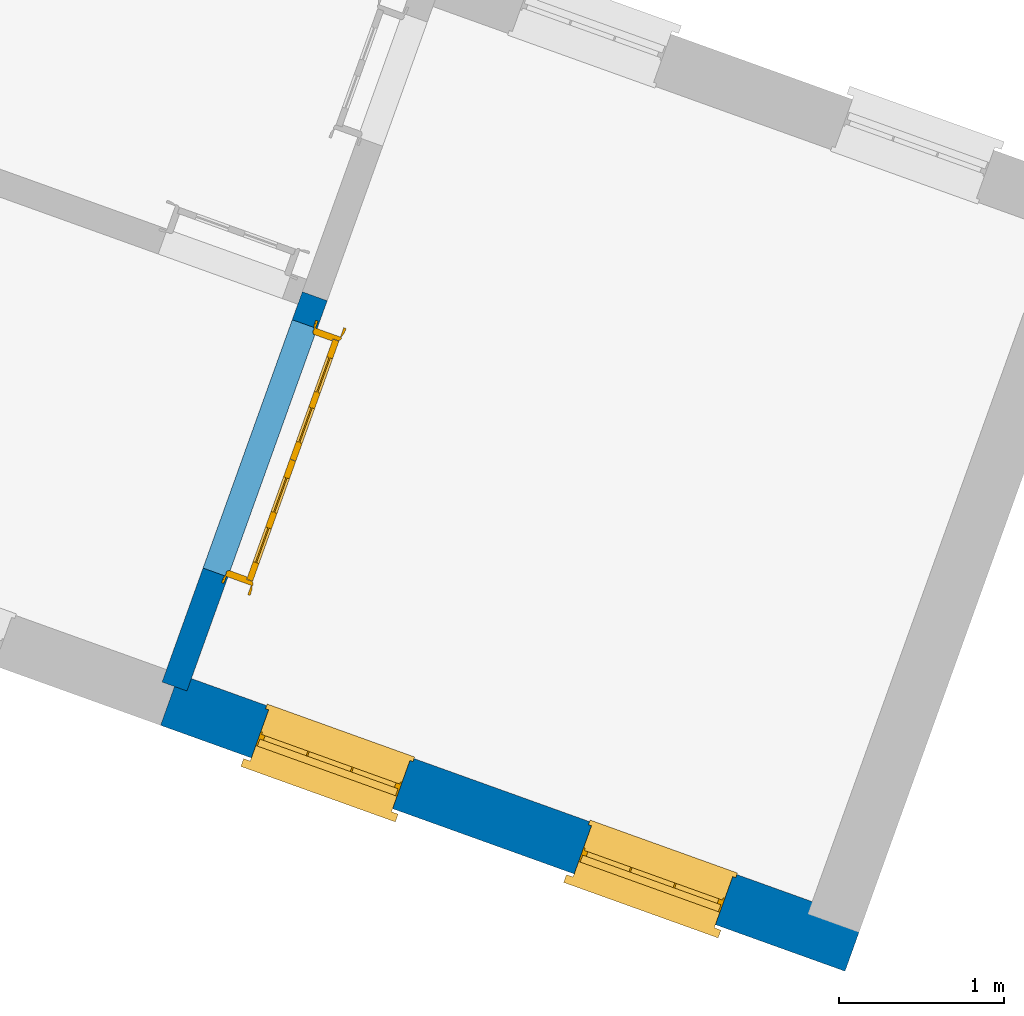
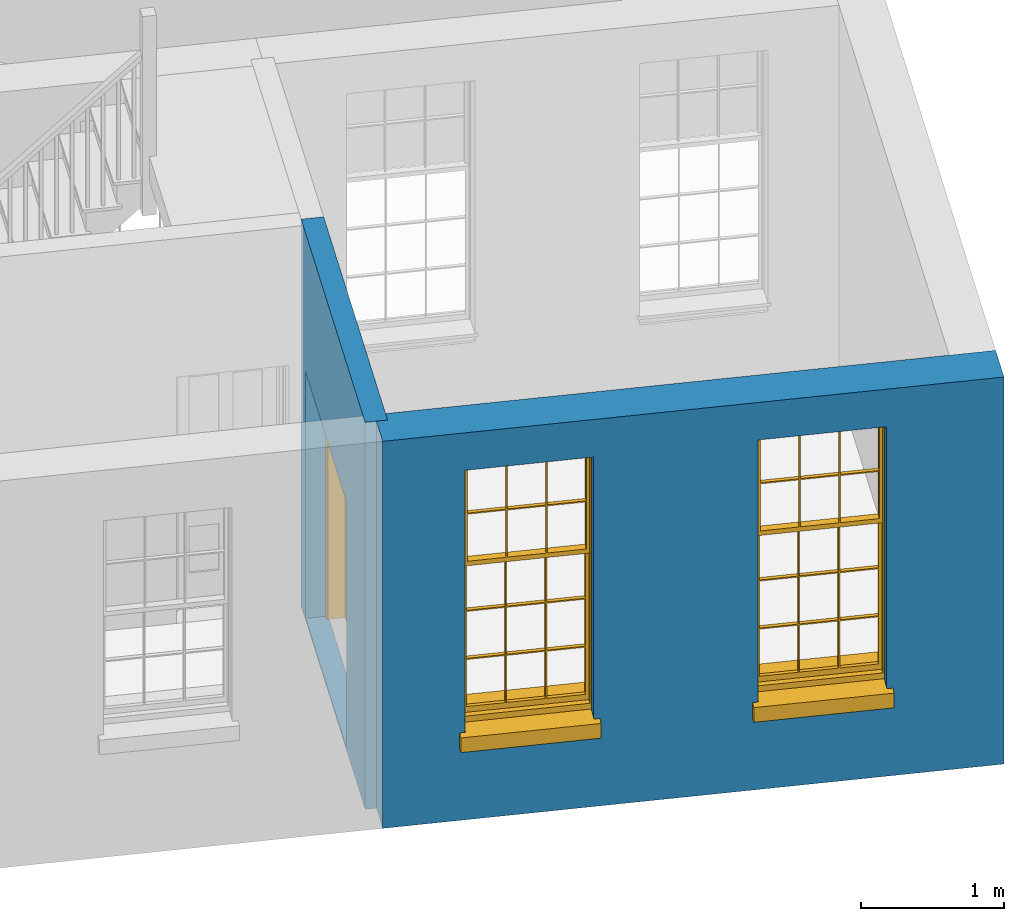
# One storey, part 2 of 6: 2 walls, 2 windows, 1 door, 3 openings.
"""IFC4 building model written with IfcOpenShell, lengths in metres."""

from ifc_helpers import new_model, si_unit, frame, origin, origin_with_axes, place, context, subcontext, project, spatial, polyline, outline, extrude, faceted_brep, source, transform, mapped, material, layer, layer_set, layer_usage, type_object, type_shapes, element, fill, save


model = new_model("IFC4")

# Units and contexts
model_context = context("Model", 3, world=origin_with_axes())
body_context = subcontext(model_context, "Body", "Model", "MODEL_VIEW")
ifc_project = project(units=[si_unit("PLANEANGLEUNIT", "RADIAN"), si_unit("MASSUNIT", "GRAM", prefix="KILO"), si_unit("FORCEUNIT", "NEWTON", prefix="KILO"), si_unit("LENGTHUNIT", "METRE"), si_unit("AREAUNIT", "SQUARE_METRE"), si_unit("VOLUMEUNIT", "CUBIC_METRE")], contexts=[model_context, model_context])

# Sites, building, storey
site_1_placement = place(None, origin_with_axes())
site_1 = spatial("IfcSite", under=ifc_project, at=site_1_placement, Name="Tamar")
site_2_placement = place(site_1_placement, origin_with_axes())
site_2 = spatial("IfcSite", under=site_1, at=site_2_placement, Name="Site plot-22", CompositionType="ELEMENT")
building_placement = place(None, origin_with_axes())
building = spatial("IfcBuilding", under=site_2, at=building_placement, Name="Building plot-22", CompositionType="ELEMENT")
storey_placement = place(None, frame((0.0, 0.0, 24.5), z_axis=(0.0, 0.0, 1.0), x_axis=(1.0, 0.0, 0.0)))
storey = spatial("IfcBuildingStorey", under=building, at=storey_placement, Name="plot-22 0", CompositionType="ELEMENT", Elevation=24.5)

# Wall, openings, windows
ifc_material_1 = material(Name="Masonry")
ifc_layer_1 = layer(ifc_material_1, 0.33, ventilated=False)
ifc_layer_set_1 = layer_set([ifc_layer_1], Name="exterior_0.08_0.25")
ifc_layer_usage_1 = layer_usage(ifc_layer_set_1, "AXIS2", "POSITIVE", -0.25)
wall_type_1 = type_object("IfcWallType", Name="exterior_0.08_0.25", PredefinedType="SOLIDWALL", material=ifc_layer_set_1)
wall_1_placement = place(storey_placement, frame((252.911384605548, 270.798765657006, 0.0), z_axis=(0.0, 0.0, 1.0), x_axis=(0.941087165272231, -0.338164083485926, 0.0)))
wall_1 = element("IfcWall", 1, at=wall_1_placement, inside=storey, type_object=wall_type_1, material=ifc_layer_usage_1, Name="exterior", context=body_context, shape_type="SweptSolid", body=[
    extrude(outline(polyline([(1.44644432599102e-14, 0.0799999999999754), (-3.46848826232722e-14, -0.249999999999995), (4.40963962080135, -0.249999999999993), (4.40963962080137, 0.0799999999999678), (1.44644432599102e-14, 0.0799999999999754)])), origin_with_axes(), (0.0, 0.0, 1.0), 3.3),
])
opening_1_placement = place(wall_1_placement, frame((0.584909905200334, 0.0, 0.75)))
opening_1 = element("IfcOpeningElement", 2, at=opening_1_placement, cuts=wall_1, Name="My Opening", ObjectType="Opening", context=body_context, shape_type="SweptSolid", body=[
    extrude(outline(polyline([(0.0, -0.269999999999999), (0.910000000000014, -0.270000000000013), (0.910000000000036, 1.09999999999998), (2.18713935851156e-14, 1.1), (0.0, -0.269999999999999)])), origin_with_axes(), (0.0, 0.0, 1.0), 2.23),
])
opening_2_placement = place(wall_1_placement, frame((2.66472971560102, 0.0, 0.75)))
opening_2 = element("IfcOpeningElement", 3, at=opening_2_placement, cuts=wall_1, Name="My Opening", ObjectType="Opening", context=body_context, shape_type="SweptSolid", body=[
    extrude(outline(polyline([(0.0, -0.269999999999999), (0.910000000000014, -0.270000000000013), (0.909999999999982, 1.09999999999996), (2.22044604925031e-14, 1.1), (0.0, -0.269999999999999)])), origin_with_axes(), (0.0, 0.0, 1.0), 2.23),
])
window_type = type_object("IfcWindowType", Name="sash_big_taller", PartitioningType="DOUBLE_PANEL_HORIZONTAL", PredefinedType="NOTDEFINED")
shared_shape_1 = source(origin(), body_context, "Body", "Brep", [
    faceted_brep([(0.033125, 0.145, 1.385209), (0.01, 0.145, 1.385209), (0.033125, 0.145, 1.786042), (0.876875, 0.145, 1.385209), (0.876875, 0.145, 1.786042), (0.9, 0.145, 1.385209), (0.876875, 0.145, 1.796042), (0.876875, 0.145, 2.196875), (0.9, 0.145, 2.22), (0.033125, 0.145, 2.196875), (0.033125, 0.145, 1.796042), (0.01, 0.145, 2.22), (0.876875, 0.115, 1.786042), (0.876875, 0.115, 1.385209), (0.9, 0.115, 1.347084), (0.033125, 0.115, 2.196875), (0.01, 0.115, 2.22), (0.033125, 0.115, 1.796042), (0.01, 0.115, 1.347084), (0.033125, 0.115, 1.385209), (0.033125, 0.115, 1.786042), (0.876875, 0.115, 2.196875), (0.876875, 0.115, 1.796042), (0.9, 0.115, 2.22), (0.033125, 0.145, 1.347084), (0.01, 0.145, 1.347084), (0.033125, 0.145, 0.94625), (0.876875, 0.145, 1.347084), (0.876875, 0.145, 0.94625), (0.9, 0.145, 1.347084), (0.876875, 0.145, 0.52625), (0.876875, 0.145, 0.125417), (0.9, 0.145, 0.077167), (0.033125, 0.145, 0.125417), (0.033125, 0.145, 0.52625), (0.01, 0.145, 0.077167), (-0.0425, 0.0, 0.01), (-0.0425, -0.05, 0.001667), (0.0, 0.0, 0.01), (0.9525, 0.0, 0.01), (0.91, 0.0, 0.01), (0.9525, -0.05, 0.001667), (-0.02, 0.33, 0.077167), (0.0, 0.33, 0.077167), (-0.02, 0.36, 0.077167), (0.0, 0.19, 0.077167), (0.01, 0.19, 0.077167), (0.91, 0.19, 0.077167), (0.91, 0.33, 0.077167), (0.9, 0.19, 0.077167), (0.93, 0.33, 0.077167), (0.93, 0.36, 0.077167), (0.01, 0.175, 1.385209), (0.9, 0.175, 1.385209), (0.876875, 0.175, 0.125417), (0.876875, 0.175, 0.52625), (0.9, 0.175, 0.077167), (0.876875, 0.175, 0.94625), (0.876875, 0.175, 1.347084), (0.033125, 0.175, 0.125417), (0.01, 0.175, 0.077167), (0.033125, 0.175, 0.52625), (0.033125, 0.175, 1.347084), (0.033125, 0.175, 0.94625), (-0.02, 0.33, 0.052167), (-0.02, 0.36, 0.052167), (0.93, 0.36, 0.052167), (0.93, 0.33, 0.052167), (0.91, 0.33, 0.052167), (0.0, 0.33, 0.052167), (0.91, 0.1, 0.026667), (0.0, 0.1, 0.026667), (-0.0425, -0.05, -0.123333), (0.9525, -0.05, -0.123333), (-0.0425, 0.0, -0.123333), (0.9525, 0.0, -0.123333), (0.01, 0.19, 2.22), (0.9, 0.19, 2.22), (0.0, 0.19, 2.23), (0.91, 0.19, 2.23), (0.01, 0.1, 0.077167), (0.9, 0.1, 0.077167), (0.592292, 0.145, 0.125417), (0.592292, 0.175, 0.125417), (0.317708, 0.175, 0.125417), (0.317708, 0.145, 0.125417), (0.592292, 0.145, 0.53625), (0.317708, 0.145, 0.53625), (0.317708, 0.145, 0.52625), (0.592292, 0.145, 0.52625), (0.592292, 0.175, 0.53625), (0.317708, 0.175, 0.53625), (0.592292, 0.115, 1.796042), (0.592292, 0.145, 1.796042), (0.317708, 0.145, 1.796042), (0.317708, 0.115, 1.796042), (0.317708, 0.115, 1.786042), (0.592292, 0.115, 1.786042), (0.317708, 0.145, 1.786042), (0.592292, 0.145, 1.786042), (0.602292, 0.115, 1.786042), (0.592292, 0.115, 1.385209), (0.602292, 0.115, 1.385209), (0.602292, 0.145, 1.385209), (0.592292, 0.145, 1.385209), (0.602292, 0.145, 1.786042), (0.876875, 0.145, 0.53625), (0.876875, 0.175, 0.53625), (0.602292, 0.175, 0.53625), (0.602292, 0.145, 0.53625), (0.317708, 0.175, 0.52625), (0.307708, 0.175, 0.125417), (0.307708, 0.175, 0.52625), (0.602292, 0.175, 0.52625), (0.602292, 0.175, 0.125417), (0.592292, 0.175, 0.52625), (0.307708, 0.175, 0.53625), (0.033125, 0.175, 0.53625), (0.317708, 0.175, 1.347084), (0.317708, 0.175, 0.94625), (0.307708, 0.175, 0.94625), (0.307708, 0.175, 1.347084), (0.602292, 0.175, 1.347084), (0.602292, 0.175, 0.94625), (0.592292, 0.175, 0.94625), (0.592292, 0.175, 1.347084), (0.307708, 0.145, 0.52625), (0.307708, 0.145, 0.125417), (0.307708, 0.145, 0.53625), (0.033125, 0.145, 0.53625), (0.307708, 0.145, 1.347084), (0.307708, 0.145, 0.94625), (0.592292, 0.145, 1.347084), (0.592292, 0.145, 0.94625), (0.317708, 0.145, 0.94625), (0.317708, 0.145, 1.347084), (0.602292, 0.145, 0.94625), (0.602292, 0.145, 1.347084), (0.602292, 0.145, 0.52625), (0.602292, 0.145, 0.125417), (0.307708, 0.115, 1.796042), (0.307708, 0.115, 1.786042), (0.307708, 0.115, 1.385209), (0.317708, 0.115, 1.385209), (0.317708, 0.115, 2.196875), (0.307708, 0.115, 2.196875), (0.602292, 0.115, 2.196875), (0.592292, 0.115, 2.196875), (0.602292, 0.115, 1.796042), (0.602292, 0.145, 1.796042), (0.307708, 0.145, 1.796042), (0.307708, 0.145, 2.196875), (0.317708, 0.145, 2.196875), (0.592292, 0.145, 2.196875), (0.602292, 0.145, 2.196875), (0.307708, 0.145, 1.786042), (0.317708, 0.145, 1.385209), (0.307708, 0.145, 1.385209), (0.876875, 0.175, 0.93625), (0.033125, 0.175, 0.93625), (0.033125, 0.145, 0.93625), (0.876875, 0.145, 0.93625), (0.91, 0.1, 2.23), (0.9, 0.1, 2.22), (0.01, 0.1, 2.22), (0.0, 0.1, 2.23), (0.91, 0.0, 0.0), (0.0, 0.0, 0.0), (0.91, 0.33, 0.0), (0.0, 0.33, 0.0), (0.317708, 0.145, 0.93625), (0.592292, 0.145, 0.93625), (0.317708, 0.175, 0.93625), (0.307708, 0.175, 0.93625), (0.602292, 0.175, 0.93625), (0.592292, 0.175, 0.93625), (0.307708, 0.145, 0.93625), (0.602292, 0.145, 0.93625)], [[[0, 1, 2]], [[3, 4, 5]], [[6, 7, 8]], [[9, 10, 11]], [[12, 13, 14]], [[15, 16, 17]], [[18, 19, 20]], [[21, 22, 23]], [[24, 25, 26]], [[27, 28, 29]], [[30, 31, 32]], [[33, 34, 35]], [[14, 27, 29]], [[25, 24, 18]], [[36, 37, 38]], [[39, 40, 41]], [[42, 43, 44]], [[45, 46, 43]], [[47, 48, 49]], [[50, 51, 48]], [[1, 0, 52]], [[5, 53, 3]], [[54, 55, 56]], [[57, 58, 53]], [[59, 60, 61]], [[62, 63, 52]], [[48, 43, 46, 49]], [[51, 44, 43, 48]], [[64, 42, 44, 65]], [[65, 44, 51, 66]], [[66, 51, 50, 67]], [[65, 66, 68, 69]], [[60, 56, 49, 46]], [[70, 71, 38, 40]], [[37, 41, 40, 38]], [[37, 72, 73, 41]], [[74, 75, 73, 72]], [[8, 11, 76, 77]], [[76, 78, 79, 77]], [[32, 35, 80, 81]], [[81, 80, 71, 70]], [[82, 83, 84, 85]], [[86, 87, 88, 89]], [[86, 90, 91, 87]], [[92, 93, 94, 95]], [[92, 95, 96, 97]], [[96, 98, 99, 97]], [[100, 97, 101, 102]], [[103, 104, 99, 105]], [[97, 99, 104, 101]], [[102, 103, 105, 100]], [[106, 107, 108, 109]], [[110, 84, 111, 112]], [[113, 114, 83, 115]], [[116, 112, 61, 117]], [[90, 115, 110, 91]], [[118, 119, 120, 121]], [[122, 123, 124, 125]], [[113, 108, 107, 55]], [[126, 112, 111, 127]], [[34, 61, 112, 126]], [[89, 115, 83, 82]], [[88, 110, 115, 89]], [[85, 84, 110, 88]], [[128, 116, 117, 129]], [[130, 121, 120, 131]], [[132, 125, 124, 133]], [[134, 119, 118, 135]], [[136, 123, 122, 137]], [[138, 113, 55, 30]], [[139, 114, 113, 138]], [[138, 30, 106, 109]], [[88, 126, 127, 85]], [[138, 89, 82, 139]], [[137, 132, 133, 136]], [[128, 129, 34, 126]], [[135, 130, 131, 134]], [[140, 17, 20, 141]], [[96, 141, 142, 143]], [[144, 145, 140, 95]], [[146, 147, 92, 148]], [[100, 12, 22, 148]], [[149, 6, 4, 105]], [[94, 150, 151, 152]], [[149, 93, 153, 154]], [[99, 98, 94, 93]], [[155, 2, 10, 150]], [[156, 157, 155, 98]], [[141, 155, 157, 142]], [[20, 2, 155, 141]], [[143, 156, 98, 96]], [[140, 150, 10, 17]], [[145, 151, 150, 140]], [[147, 153, 93, 92]], [[95, 94, 152, 144]], [[22, 6, 149, 148]], [[148, 149, 154, 146]], [[100, 105, 4, 12]], [[109, 86, 89, 138]], [[108, 113, 115, 90]], [[91, 110, 112, 116]], [[87, 128, 126, 88]], [[97, 100, 148, 92]], [[141, 96, 95, 140]], [[98, 155, 150, 94]], [[105, 99, 93, 149]], [[143, 101, 104, 156]], [[135, 118, 125, 132]], [[144, 152, 153, 147]], [[127, 111, 59, 33]], [[15, 9, 151, 145]], [[146, 154, 7, 21]], [[31, 54, 114, 139]], [[36, 74, 72, 37]], [[39, 41, 73, 75]], [[18, 14, 101, 143]], [[23, 16, 144, 147]], [[83, 56, 60, 84]], [[52, 53, 125, 118]], [[53, 52, 156, 104]], [[11, 8, 153, 152]], [[14, 18, 135, 132]], [[2, 1, 11, 10]], [[8, 5, 4, 6]], [[57, 53, 56, 158]], [[60, 52, 63, 159]], [[26, 25, 35, 160]], [[32, 29, 28, 161]], [[14, 23, 22, 12]], [[18, 20, 17, 16]], [[19, 0, 2, 20]], [[17, 10, 9, 15]], [[12, 4, 3, 13]], [[21, 7, 6, 22]], [[27, 58, 57, 28]], [[30, 55, 54, 31]], [[33, 59, 61, 34]], [[26, 63, 62, 24]], [[5, 8, 77, 53]], [[76, 11, 1, 52]], [[46, 45, 78, 76]], [[49, 77, 79, 47]], [[70, 162, 163, 81]], [[71, 80, 164, 165]], [[19, 142, 157, 0]], [[102, 13, 3, 103]], [[121, 130, 24, 62]], [[29, 32, 81, 14]], [[80, 35, 25, 18]], [[60, 46, 76, 52]], [[77, 49, 56, 53]], [[23, 14, 81, 163]], [[16, 164, 80, 18]], [[35, 85, 127]], [[127, 33, 35]], [[139, 82, 32]], [[32, 31, 139]], [[32, 82, 85, 35]], [[102, 101, 14]], [[14, 13, 102]], [[18, 143, 142]], [[142, 19, 18]], [[146, 21, 23]], [[23, 147, 146]], [[16, 15, 145]], [[145, 144, 16]], [[11, 152, 151]], [[151, 9, 11]], [[154, 153, 8]], [[8, 7, 154]], [[23, 163, 164, 16]], [[162, 165, 164, 163]], [[52, 118, 121]], [[121, 62, 52]], [[125, 53, 122]], [[58, 122, 53]], [[27, 137, 122, 58]], [[56, 83, 114]], [[114, 54, 56]], [[111, 84, 60]], [[60, 59, 111]], [[137, 27, 14]], [[14, 132, 137]], [[130, 135, 18]], [[18, 24, 130]], [[157, 156, 52]], [[52, 0, 157]], [[103, 3, 53]], [[53, 104, 103]], [[79, 78, 165, 162]], [[78, 45, 71, 165]], [[162, 70, 47, 79]], [[166, 75, 74, 167]], [[68, 66, 67]], [[48, 68, 67, 50]], [[69, 64, 65]], [[42, 64, 69, 43]], [[69, 68, 168, 169]], [[70, 68, 48, 47]], [[166, 168, 68, 70]], [[43, 69, 71, 45]], [[69, 169, 167, 71]], [[168, 166, 167, 169]], [[38, 167, 74, 36]], [[71, 167, 38]], [[39, 75, 166, 40]], [[40, 166, 70]], [[133, 134, 170, 171]], [[133, 124, 119, 134]], [[28, 57, 123, 136]], [[172, 91, 116, 173]], [[174, 108, 90, 175]], [[120, 173, 159, 63]], [[124, 175, 172, 119]], [[174, 123, 57, 158]], [[176, 173, 116, 128]], [[160, 159, 173, 176]], [[171, 175, 90, 86]], [[170, 172, 175, 171]], [[87, 91, 172, 170]], [[131, 120, 63, 26]], [[177, 174, 158, 161]], [[109, 108, 174, 177]], [[177, 161, 28, 136]], [[170, 176, 128, 87]], [[177, 171, 86, 109]], [[131, 26, 160, 176]], [[136, 133, 171, 177]], [[123, 174, 175, 124]], [[119, 172, 173, 120]], [[134, 131, 176, 170]], [[129, 117, 159, 160]], [[161, 158, 107, 106]], [[35, 34, 129]], [[35, 129, 160]], [[32, 106, 30]], [[32, 161, 106]], [[56, 55, 107]], [[56, 107, 158]], [[60, 117, 61]], [[60, 159, 117]]]),
])
type_shapes(window_type, [shared_shape_1])
window_1_placement = place(storey_placement, frame((253.370531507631, 270.346876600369, 0.75), z_axis=(0.0, 0.0, 1.0), x_axis=(0.856389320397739, -0.30772931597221, 0.0)))
window_1 = element("IfcWindow", 4, at=window_1_placement, inside=storey, type_object=window_type, Name="living street window", OverallHeight=2.23, OverallWidth=0.91, context=body_context, shape_type="MappedRepresentation", body=[
    mapped(shared_shape_1, transform((0.0, 0.0, 0.0), scale=1.0)),
])
fill(opening_1, window_1)
window_2_placement = place(storey_placement, frame((255.327823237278, 269.643556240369, 0.75), z_axis=(0.0, 0.0, 1.0), x_axis=(0.85638932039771, -0.30772931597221, 0.0)))
window_2 = element("IfcWindow", 5, at=window_2_placement, inside=storey, type_object=window_type, Name="living street window", OverallHeight=2.23, OverallWidth=0.91, context=body_context, shape_type="MappedRepresentation", body=[
    mapped(shared_shape_1, transform((0.0, 0.0, 0.0), scale=1.0)),
])
fill(opening_2, window_2)

# Wall, opening, door
ifc_material_2 = material(Name="Masonry")
ifc_layer_2 = layer(ifc_material_2, 0.16, ventilated=False)
ifc_layer_set_2 = layer_set([ifc_layer_2], Name="interior_0.08_0.08")
ifc_layer_usage_2 = layer_usage(ifc_layer_set_2, "AXIS2", "POSITIVE", -0.08)
wall_type_2 = type_object("IfcWallType", Name="interior_0.08_0.08", PredefinedType="SOLIDWALL", material=ifc_layer_set_2)
wall_2_placement = place(storey_placement, frame((253.76162339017, 273.164921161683, 0.0), z_axis=(0.0, 0.0, 1.0), x_axis=(-0.338164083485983, -0.941087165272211, 0.0)))
wall_2 = element("IfcWall", 6, at=wall_2_placement, inside=storey, type_object=wall_type_2, material=ifc_layer_usage_2, Name="interior", context=body_context, shape_type="SweptSolid", body=[
    extrude(outline(polyline([(-1.46957615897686e-17, 0.0800000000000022), (4.89858719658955e-18, -0.0800000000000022), (2.51427879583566, -0.0800000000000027), (2.51427879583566, 0.0800000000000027), (-1.46957615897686e-17, 0.0800000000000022)])), origin_with_axes(), (0.0, 0.0, 1.0), 3.3),
])
opening_3_placement = place(wall_2_placement, frame((0.180000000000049, 0.0, 0.0199999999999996)))
opening_3 = element("IfcOpeningElement", 7, at=opening_3_placement, cuts=wall_2, Name="My Opening", ObjectType="Opening", context=body_context, shape_type="SweptSolid", body=[
    extrude(outline(polyline([(0.0, -0.0999999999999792), (1.59999999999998, -0.099999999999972), (1.59999999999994, 1.10000000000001), (-4.37705427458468e-14, 1.10000000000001), (0.0, -0.0999999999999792)])), origin_with_axes(), (0.0, 0.0, 1.0), 2.1),
])
door_type = type_object("IfcDoorType", Name="door_inside_double", OperationType="SINGLE_SWING_LEFT", PredefinedType="NOTDEFINED")
shared_shape_2 = source(origin(), body_context, "Body", "Brep", [
    faceted_brep([(0.14, 0.307, 1.895), (0.14, 0.307, 0.82), (0.363, 0.307, 0.82), (0.363, 0.307, 1.895), (0.14, 0.292, 1.895), (0.14, 0.292, 0.82), (0.363, 0.292, 0.82), (0.363, 0.292, 1.895), (0.027, 0.292, 1.895), (0.027, 0.292, 0.82), (0.363, 0.292, 0.62), (0.14, 0.292, 0.62), (0.463, 0.292, 0.82), (0.463, 0.292, 1.895), (0.363, 0.292, 2.073), (0.14, 0.292, 2.073), (0.027, 0.292, 2.073), (0.027, 0.33, 1.895), (0.027, 0.33, 0.82), (0.027, 0.292, 0.62), (0.463, 0.292, 0.62), (0.14, 0.307, 0.62), (0.363, 0.307, 0.62), (0.463, 0.307, 0.82), (0.463, 0.307, 1.895), (0.463, 0.292, 2.073), (0.14, 0.33, 2.073), (0.363, 0.33, 2.073), (0.027, 0.33, 2.073), (0.14, 0.33, 1.895), (0.14, 0.33, 0.82), (0.027, 0.33, 0.62), (0.027, 0.292, 0.225), (0.14, 0.292, 0.225), (0.363, 0.292, 0.225), (0.463, 0.292, 0.225), (0.686, 0.292, 0.62), (0.686, 0.292, 0.82), (0.14, 0.307, 0.225), (0.363, 0.307, 0.225), (0.686, 0.307, 0.82), (0.686, 0.307, 1.895), (0.686, 0.292, 1.895), (0.686, 0.292, 2.073), (0.463, 0.33, 2.073), (0.363, 0.33, 1.895), (0.14, 0.315, 1.895), (0.14, 0.315, 0.82), (0.14, 0.33, 0.62), (0.027, 0.33, 0.225), (0.027, 0.292, 0.0), (0.14, 0.292, 0.0), (0.363, 0.292, 0.0), (0.463, 0.292, 0.0), (0.463, 0.307, 0.225), (0.463, 0.307, 0.62), (0.686, 0.307, 0.62), (0.799, 0.292, 0.62), (0.799, 0.292, 0.82), (0.799, 0.292, 1.895), (0.799, 0.292, 2.073), (0.686, 0.33, 2.073), (0.463, 0.33, 1.895), (0.363, 0.315, 1.895), (0.363, 0.315, 0.82), (0.363, 0.33, 0.82), (0.363, 0.33, 0.62), (0.14, 0.33, 0.225), (0.027, 0.33, 0.0), (0.14, 0.33, 0.0), (0.363, 0.33, 0.0), (0.463, 0.33, 0.0), (0.686, 0.292, 0.0), (0.686, 0.292, 0.225), (0.686, 0.307, 0.225), (0.799, 0.292, 0.225), (0.799, 0.33, 0.62), (0.799, 0.33, 0.82), (0.799, 0.33, 1.895), (0.799, 0.33, 2.073), (0.686, 0.33, 1.895), (0.463, 0.33, 0.82), (0.463, 0.33, 0.62), (0.363, 0.315, 0.62), (0.14, 0.315, 0.62), (0.14, 0.315, 0.225), (0.363, 0.33, 0.225), (0.463, 0.33, 0.225), (0.686, 0.33, 0.0), (0.799, 0.292, 0.0), (0.799, 0.33, 0.225), (0.686, 0.33, 0.62), (0.686, 0.33, 0.82), (0.686, 0.315, 1.895), (0.463, 0.315, 1.895), (0.463, 0.315, 0.82), (0.363, 0.315, 0.225), (0.686, 0.33, 0.225), (0.799, 0.33, 0.0), (0.686, 0.315, 0.82), (0.463, 0.315, 0.62), (0.463, 0.315, 0.225), (0.686, 0.315, 0.62), (0.686, 0.315, 0.225), (1.46, 0.33, 1.895), (1.237, 0.33, 1.895), (1.237, 0.33, 2.073), (1.46, 0.33, 2.073), (1.46, 0.315, 1.895), (1.237, 0.315, 1.895), (1.137, 0.33, 1.895), (1.137, 0.33, 2.073), (1.237, 0.292, 2.073), (1.46, 0.292, 2.073), (1.573, 0.33, 1.895), (1.573, 0.33, 2.073), (1.46, 0.33, 0.82), (1.46, 0.315, 0.82), (1.237, 0.315, 0.82), (1.237, 0.33, 0.82), (1.137, 0.33, 0.82), (0.914, 0.33, 2.073), (0.914, 0.33, 1.895), (1.137, 0.292, 2.073), (1.237, 0.292, 1.895), (1.46, 0.292, 1.895), (1.573, 0.292, 2.073), (1.573, 0.33, 0.82), (1.573, 0.292, 1.895), (1.237, 0.33, 0.62), (1.137, 0.33, 0.62), (1.137, 0.315, 0.82), (1.137, 0.315, 1.895), (0.914, 0.292, 2.073), (0.914, 0.315, 1.895), (0.801, 0.33, 2.073), (0.801, 0.33, 1.895), (1.137, 0.292, 1.895), (1.237, 0.307, 1.895), (1.46, 0.307, 1.895), (1.573, 0.292, 0.82), (1.573, 0.33, 0.62), (1.46, 0.33, 0.62), (1.237, 0.33, 0.225), (1.137, 0.33, 0.225), (0.914, 0.33, 0.82), (0.914, 0.33, 0.62), (0.914, 0.315, 0.82), (0.801, 0.292, 2.073), (0.914, 0.292, 1.895), (0.801, 0.33, 0.82), (0.801, 0.292, 1.895), (1.137, 0.292, 0.82), (1.237, 0.292, 0.82), (1.237, 0.307, 0.82), (1.46, 0.307, 0.82), (1.46, 0.292, 0.82), (1.573, 0.292, 0.62), (1.573, 0.33, 0.225), (1.46, 0.33, 0.225), (1.46, 0.315, 0.62), (1.237, 0.315, 0.62), (1.237, 0.33, 0.0), (1.137, 0.33, 0.0), (1.137, 0.315, 0.225), (1.137, 0.315, 0.62), (1.237, 0.315, 0.225), (0.914, 0.315, 0.62), (0.801, 0.33, 0.62), (0.914, 0.307, 1.895), (1.137, 0.307, 1.895), (0.801, 0.292, 0.82), (1.137, 0.292, 0.62), (1.237, 0.292, 0.62), (1.137, 0.307, 0.82), (1.46, 0.292, 0.62), (1.573, 0.292, 0.225), (1.573, 0.33, 0.0), (1.46, 0.33, 0.0), (1.46, 0.315, 0.225), (1.237, 0.292, 0.0), (1.137, 0.292, 0.0), (0.914, 0.33, 0.225), (0.914, 0.33, 0.0), (0.914, 0.315, 0.225), (0.801, 0.33, 0.225), (0.801, 0.292, 0.62), (0.914, 0.292, 0.82), (0.914, 0.307, 0.82), (1.137, 0.292, 0.225), (1.237, 0.292, 0.225), (0.914, 0.292, 0.62), (1.46, 0.292, 0.225), (1.573, 0.292, 0.0), (1.46, 0.292, 0.0), (0.914, 0.292, 0.0), (0.801, 0.33, 0.0), (0.801, 0.292, 0.225), (1.237, 0.307, 0.225), (1.237, 0.307, 0.62), (1.137, 0.307, 0.62), (1.137, 0.307, 0.225), (1.46, 0.307, 0.62), (0.914, 0.307, 0.62), (1.46, 0.307, 0.225), (0.914, 0.292, 0.225), (0.801, 0.292, 0.0), (0.914, 0.307, 0.225), (0.02, 0.335, 0.0), (0.005, 0.34, 0.0), (0.005, 0.34, 2.095), (0.02, 0.335, 2.08), (0.02, 0.33, 0.0), (0.0, 0.335, 0.0), (0.0, 0.335, 2.1), (1.595, 0.34, 2.095), (1.58, 0.335, 2.08), (0.02, 0.33, 2.08), (0.0, 0.33, 0.0), (-0.032, 0.345, 0.0), (-0.032, 0.345, 2.132), (1.6, 0.335, 2.1), (1.595, 0.34, 0.0), (1.58, 0.335, 0.0), (1.58, 0.33, 2.08), (0.025, 0.33, 0.0), (0.025, 0.33, 2.075), (-0.04, 0.34, 0.0), (0.025, 0.29, 0.0), (0.0, 0.17, 0.0), (-0.04, 0.34, 2.14), (1.632, 0.345, 2.132), (1.6, 0.335, 0.0), (1.58, 0.33, 0.0), (1.575, 0.33, 2.075), (0.025, 0.29, 2.075), (-0.06, 0.33, 0.0), (0.035, 0.17, 0.0), (0.0, 0.17, 2.1), (0.0, 0.33, 2.1), (-0.04, 0.345, 0.0), (-0.04, 0.345, 2.14), (1.64, 0.34, 2.14), (1.632, 0.345, 0.0), (1.6, 0.33, 0.0), (1.575, 0.33, 0.0), (1.575, 0.29, 2.075), (0.04, 0.29, 0.0), (0.04, 0.29, 2.06), (-0.06, 0.345, 0.0), (-0.06, 0.33, 2.16), (0.015, 0.165, 0.0), (0.04, 0.17, 0.0), (-0.045, 0.17, 2.145), (-0.045, 0.17, 0.0), (1.6, 0.17, 2.1), (1.6, 0.33, 2.1), (-0.06, 0.345, 2.16), (1.64, 0.345, 2.14), (1.64, 0.34, 0.0), (1.6, 0.17, 0.0), (1.575, 0.29, 0.0), (1.56, 0.29, 2.06), (0.04, 0.17, 2.06), (1.66, 0.33, 2.16), (-0.017, 0.155, 0.0), (-0.025, 0.16, 0.0), (0.02, 0.16, 0.0), (0.035, 0.165, 0.0), (0.035, 0.17, 2.065), (1.645, 0.17, 2.145), (-0.045, 0.155, 2.145), (-0.045, 0.155, 0.0), (1.66, 0.345, 2.16), (1.64, 0.345, 0.0), (1.66, 0.33, 0.0), (1.565, 0.17, 0.0), (1.56, 0.29, 0.0), (1.56, 0.17, 2.06), (-0.017, 0.155, 2.117), (-0.025, 0.16, 2.125), (0.015, 0.165, 2.085), (0.02, 0.16, 2.08), (0.035, 0.165, 2.065), (1.565, 0.17, 2.065), (1.645, 0.17, 0.0), (1.645, 0.155, 2.145), (-0.025, 0.155, 0.0), (1.66, 0.345, 0.0), (1.585, 0.165, 0.0), (1.56, 0.17, 0.0), (1.617, 0.155, 2.117), (1.625, 0.16, 2.125), (-0.025, 0.155, 2.125), (1.585, 0.165, 2.085), (1.58, 0.16, 2.08), (1.565, 0.165, 2.065), (1.625, 0.16, 0.0), (1.645, 0.155, 0.0), (1.625, 0.155, 2.125), (1.617, 0.155, 0.0), (1.565, 0.165, 0.0), (1.58, 0.16, 0.0), (1.625, 0.155, 0.0)], [[[0, 1, 2, 3]], [[1, 0, 4, 5]], [[2, 1, 5, 6]], [[6, 7, 3, 2]], [[7, 4, 0, 3]], [[4, 8, 9, 5]], [[10, 6, 5, 11]], [[6, 12, 13, 7]], [[14, 15, 4, 7]], [[15, 16, 8, 4]], [[9, 8, 17, 18]], [[5, 9, 19, 11]], [[10, 20, 12, 6]], [[10, 11, 21, 22]], [[13, 12, 23, 24]], [[7, 13, 25, 14]], [[26, 15, 14, 27]], [[28, 16, 15, 26]], [[8, 16, 28, 17]], [[17, 29, 30, 18]], [[18, 31, 19, 9]], [[11, 19, 32, 33]], [[34, 35, 20, 10]], [[20, 36, 37, 12]], [[11, 33, 38, 21]], [[39, 22, 21, 38]], [[34, 10, 22, 39]], [[12, 37, 40, 23]], [[24, 23, 40, 41]], [[42, 13, 24, 41]], [[13, 42, 43, 25]], [[14, 25, 44, 27]], [[26, 27, 45, 29]], [[28, 26, 29, 17]], [[30, 29, 46, 47]], [[18, 30, 48, 31]], [[31, 49, 32, 19]], [[33, 32, 50, 51]], [[52, 53, 35, 34]], [[20, 35, 54, 55]], [[36, 20, 55, 56]], [[36, 57, 58, 37]], [[33, 34, 39, 38]], [[37, 42, 41, 40]], [[42, 59, 60, 43]], [[44, 25, 43, 61]], [[62, 45, 27, 44]], [[29, 45, 63, 46]], [[46, 63, 64, 47]], [[65, 30, 47, 64]], [[30, 65, 66, 48]], [[31, 48, 67, 49]], [[68, 50, 32, 49]], [[68, 69, 51, 50]], [[34, 33, 51, 52]], [[53, 52, 70, 71]], [[53, 72, 73, 35]], [[35, 73, 74, 54]], [[55, 54, 74, 56]], [[73, 36, 56, 74]], [[73, 75, 57, 36]], [[57, 76, 77, 58]], [[37, 58, 59, 42]], [[78, 79, 60, 59]], [[60, 79, 61, 43]], [[80, 62, 44, 61]], [[81, 65, 45, 62]], [[45, 65, 64, 63]], [[82, 66, 65, 81]], [[48, 66, 83, 84]], [[67, 48, 84, 85]], [[49, 67, 69, 68]], [[52, 51, 69, 70]], [[71, 70, 86, 87]], [[72, 53, 71, 88]], [[72, 89, 75, 73]], [[75, 90, 76, 57]], [[76, 91, 92, 77]], [[78, 59, 58, 77]], [[78, 80, 61, 79]], [[62, 80, 93, 94]], [[81, 62, 94, 95]], [[87, 86, 66, 82]], [[91, 82, 81, 92]], [[66, 86, 96, 83]], [[84, 83, 96, 85]], [[86, 67, 85, 96]], [[67, 86, 70, 69]], [[88, 71, 87, 97]], [[89, 72, 88, 98]], [[89, 98, 90, 75]], [[90, 97, 91, 76]], [[80, 78, 77, 92]], [[80, 92, 99, 93]], [[99, 95, 94, 93]], [[92, 81, 95, 99]], [[87, 82, 100, 101]], [[82, 91, 102, 100]], [[97, 87, 101, 103]], [[98, 88, 97, 90]], [[91, 97, 103, 102]], [[103, 101, 100, 102]], [[104, 105, 106, 107]], [[105, 104, 108, 109]], [[105, 110, 111, 106]], [[106, 112, 113, 107]], [[114, 104, 107, 115]], [[104, 116, 117, 108]], [[117, 118, 109, 108]], [[119, 105, 109, 118]], [[119, 120, 110, 105]], [[121, 111, 110, 122]], [[123, 112, 106, 111]], [[124, 125, 113, 112]], [[126, 115, 107, 113]], [[104, 114, 127, 116]], [[114, 115, 126, 128]], [[116, 119, 118, 117]], [[129, 130, 120, 119]], [[110, 120, 131, 132]], [[121, 133, 123, 111]], [[122, 110, 132, 134]], [[135, 121, 122, 136]], [[137, 124, 112, 123]], [[125, 124, 138, 139]], [[125, 128, 126, 113]], [[114, 128, 140, 127]], [[141, 142, 116, 127]], [[142, 129, 119, 116]], [[143, 144, 130, 129]], [[145, 120, 130, 146]], [[120, 145, 147, 131]], [[134, 132, 131, 147]], [[135, 148, 133, 121]], [[123, 133, 149, 137]], [[145, 122, 134, 147]], [[136, 122, 145, 150]], [[151, 148, 135, 136]], [[152, 153, 124, 137]], [[124, 153, 154, 138]], [[138, 154, 155, 139]], [[156, 125, 139, 155]], [[156, 140, 128, 125]], [[157, 141, 127, 140]], [[158, 159, 142, 141]], [[129, 142, 160, 161]], [[162, 163, 144, 143]], [[130, 144, 164, 165]], [[143, 129, 161, 166]], [[146, 130, 165, 167]], [[150, 145, 146, 168]], [[133, 148, 151, 149]], [[137, 149, 169, 170]], [[171, 151, 136, 150]], [[172, 173, 153, 152]], [[152, 137, 170, 174]], [[153, 156, 155, 154]], [[175, 157, 140, 156]], [[176, 158, 141, 157]], [[177, 178, 159, 158]], [[142, 159, 179, 160]], [[179, 166, 161, 160]], [[180, 181, 163, 162]], [[182, 144, 163, 183]], [[178, 162, 143, 159]], [[144, 182, 184, 164]], [[167, 165, 164, 184]], [[159, 143, 166, 179]], [[182, 146, 167, 184]], [[168, 146, 182, 185]], [[150, 168, 186, 171]], [[149, 151, 171, 187]], [[149, 187, 188, 169]], [[169, 188, 174, 170]], [[189, 190, 173, 172]], [[173, 175, 156, 153]], [[172, 152, 187, 191]], [[187, 152, 174, 188]], [[192, 176, 157, 175]], [[193, 177, 158, 176]], [[193, 194, 178, 177]], [[181, 180, 190, 189]], [[181, 195, 183, 163]], [[194, 180, 162, 178]], [[185, 182, 183, 196]], [[168, 185, 197, 186]], [[187, 171, 186, 191]], [[173, 190, 198, 199]], [[189, 172, 200, 201]], [[175, 173, 199, 202]], [[172, 191, 203, 200]], [[194, 193, 176, 192]], [[192, 175, 202, 204]], [[180, 194, 192, 190]], [[189, 205, 195, 181]], [[196, 183, 195, 206]], [[196, 206, 197, 185]], [[191, 186, 197, 205]], [[190, 192, 204, 198]], [[199, 198, 204, 202]], [[201, 200, 203, 207]], [[205, 189, 201, 207]], [[191, 205, 207, 203]], [[205, 197, 206, 195]], [[208, 209, 210, 211]], [[208, 212, 213, 209]], [[209, 213, 214, 210]], [[211, 210, 215, 216]], [[211, 217, 212, 208]], [[218, 213, 212]], [[213, 219, 220, 214]], [[210, 214, 221, 215]], [[216, 215, 222, 223]], [[217, 211, 216, 224]], [[225, 212, 217, 226]], [[219, 213, 218, 227]], [[218, 212, 228, 229]], [[219, 227, 230, 220]], [[214, 220, 231, 221]], [[215, 221, 232, 222]], [[222, 232, 233, 223]], [[224, 216, 223, 233]], [[226, 217, 224, 234]], [[225, 228, 212]], [[235, 228, 225, 226]], [[236, 227, 218]], [[237, 229, 228]], [[229, 238, 239, 218]], [[227, 240, 241, 230]], [[220, 230, 242, 231]], [[221, 231, 243, 232]], [[244, 233, 232]], [[234, 224, 233, 245]], [[246, 235, 226, 234]], [[247, 228, 235, 248]], [[240, 227, 236, 249]], [[239, 250, 236, 218]], [[251, 229, 237]], [[252, 237, 228, 247]], [[253, 238, 229, 254]], [[238, 255, 256, 239]], [[241, 240, 257]], [[230, 241, 258, 242]], [[231, 242, 259, 243]], [[259, 244, 232, 243]], [[260, 261, 233, 244]], [[245, 233, 261]], [[261, 246, 234, 245]], [[248, 235, 246, 262]], [[248, 263, 252, 247]], [[250, 257, 249, 236]], [[240, 249, 257]], [[256, 264, 250, 239]], [[265, 266, 229, 251]], [[267, 251, 237, 268]], [[263, 269, 237, 252]], [[270, 255, 238, 253]], [[229, 266, 254]], [[271, 253, 254, 272]], [[256, 255, 260, 244]], [[273, 241, 257]], [[273, 258, 241]], [[242, 258, 274, 259]], [[275, 244, 259]], [[260, 276, 261]], [[261, 277, 262, 246]], [[262, 278, 263, 248]], [[264, 273, 257, 250]], [[244, 275, 264, 256]], [[266, 265, 279, 280]], [[265, 251, 281, 279]], [[251, 267, 282, 281]], [[269, 283, 268, 237]], [[267, 268, 283, 282]], [[278, 284, 269, 263]], [[285, 260, 255, 270]], [[286, 270, 253, 271]], [[272, 254, 266, 287]], [[271, 272, 287]], [[273, 274, 258]], [[288, 275, 259, 274]], [[276, 260, 289]], [[277, 261, 276, 290]], [[278, 262, 277, 290]], [[275, 288, 273, 264]], [[280, 279, 291, 292]], [[287, 266, 280, 293]], [[279, 281, 294, 291]], [[281, 282, 295, 294]], [[284, 296, 283, 269]], [[282, 283, 296, 295]], [[290, 276, 284, 278]], [[285, 297, 260]], [[298, 285, 270, 286]], [[299, 286, 271]], [[271, 287, 293]], [[273, 288, 274]], [[300, 289, 260, 297]], [[301, 276, 289, 302]], [[292, 291, 300, 297]], [[293, 280, 292, 299]], [[291, 294, 289, 300]], [[294, 295, 302, 289]], [[296, 284, 276, 301]], [[295, 296, 301, 302]], [[303, 297, 285, 298]], [[299, 298, 286]], [[271, 293, 299]], [[299, 292, 297, 303]], [[299, 303, 298]]]),
])
type_shapes(door_type, [shared_shape_2])
door_placement = place(storey_placement, frame((253.606645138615, 273.029341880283, 0.0199999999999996), z_axis=(0.0, 0.0, 1.0), x_axis=(-0.541062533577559, -1.50573946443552, 0.0)))
door = element("IfcDoor", 8, at=door_placement, inside=storey, type_object=door_type, Name="kitchen living inside door", OverallHeight=2.1, OverallWidth=1.6, context=body_context, shape_type="MappedRepresentation", body=[
    mapped(shared_shape_2, transform((0.0, 0.0, 0.0), scale=1.0)),
])
fill(opening_3, door)

save(model, "model.ifc")
